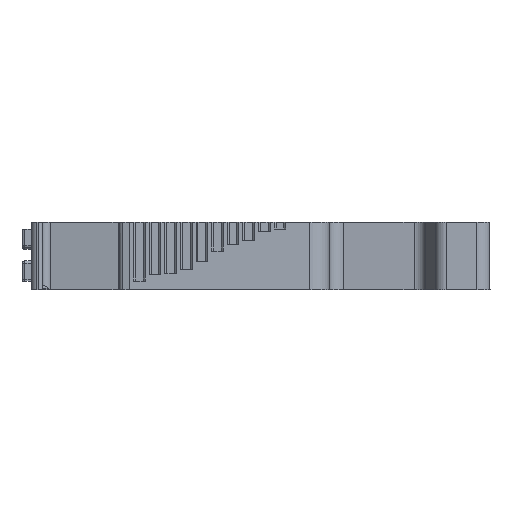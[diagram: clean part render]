
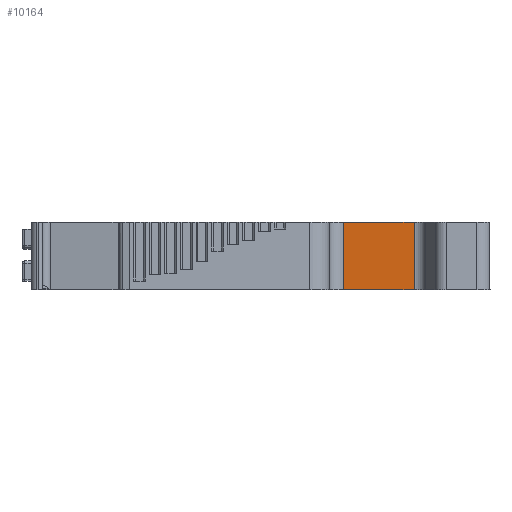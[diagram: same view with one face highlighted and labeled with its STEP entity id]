
A CAD part, left-side view. The second image highlights one B-rep face of the part: STEP entity #10164.
In plain terms, the highlighted planar face has unit normal (-0.996, 0.087, 0).
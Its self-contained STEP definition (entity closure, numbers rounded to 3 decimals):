
#491=DIRECTION('',(-0.087,-0.996,0.));
#492=VECTOR('',#491,5.448);
#493=CARTESIAN_POINT('',(3.885,11.263,-5.175));
#494=LINE('',#493,#492);
#967=DIRECTION('',(0.087,0.996,0.));
#968=VECTOR('',#967,5.448);
#969=CARTESIAN_POINT('',(3.411,5.836,0.025));
#970=LINE('',#969,#968);
#1995=DIRECTION('',(0.,0.,1.));
#1996=VECTOR('',#1995,5.2);
#1997=CARTESIAN_POINT('',(3.885,11.263,-5.175));
#1998=LINE('',#1997,#1996);
#1999=DIRECTION('',(0.,0.,1.));
#2000=VECTOR('',#1999,5.2);
#2001=CARTESIAN_POINT('',(3.411,5.836,-5.175));
#2002=LINE('',#2001,#2000);
#6384=CARTESIAN_POINT('',(3.885,11.263,-5.175));
#6385=VERTEX_POINT('',#6384);
#6386=CARTESIAN_POINT('',(3.411,5.836,-5.175));
#6387=VERTEX_POINT('',#6386);
#6752=CARTESIAN_POINT('',(3.411,5.836,0.025));
#6753=VERTEX_POINT('',#6752);
#6754=CARTESIAN_POINT('',(3.885,11.263,0.025));
#6755=VERTEX_POINT('',#6754);
#10152=CARTESIAN_POINT('',(3.648,8.549,
-2.575));
#10153=DIRECTION('',(0.996,-0.087,0.));
#10154=DIRECTION('',(-0.087,-0.996,0.));
#10155=AXIS2_PLACEMENT_3D('',#10152,#10153,#10154);
#10156=PLANE('',#10155);
#10158=ORIENTED_EDGE('',*,*,#10157,.F.);
#10159=ORIENTED_EDGE('',*,*,#8274,.F.);
#10160=ORIENTED_EDGE('',*,*,#10144,.T.);
#10161=ORIENTED_EDGE('',*,*,#8669,.F.);
#10162=EDGE_LOOP('',(#10158,#10159,#10160,#10161));
#10163=FACE_OUTER_BOUND('',#10162,.F.);
#8274=EDGE_CURVE('',#6385,#6387,#494,.T.);
#8669=EDGE_CURVE('',#6753,#6755,#970,.T.);
#10144=EDGE_CURVE('',#6385,#6755,#1998,.T.);
#10157=EDGE_CURVE('',#6387,#6753,#2002,.T.);
#10164=ADVANCED_FACE('',(#10163),#10156,.F.);
